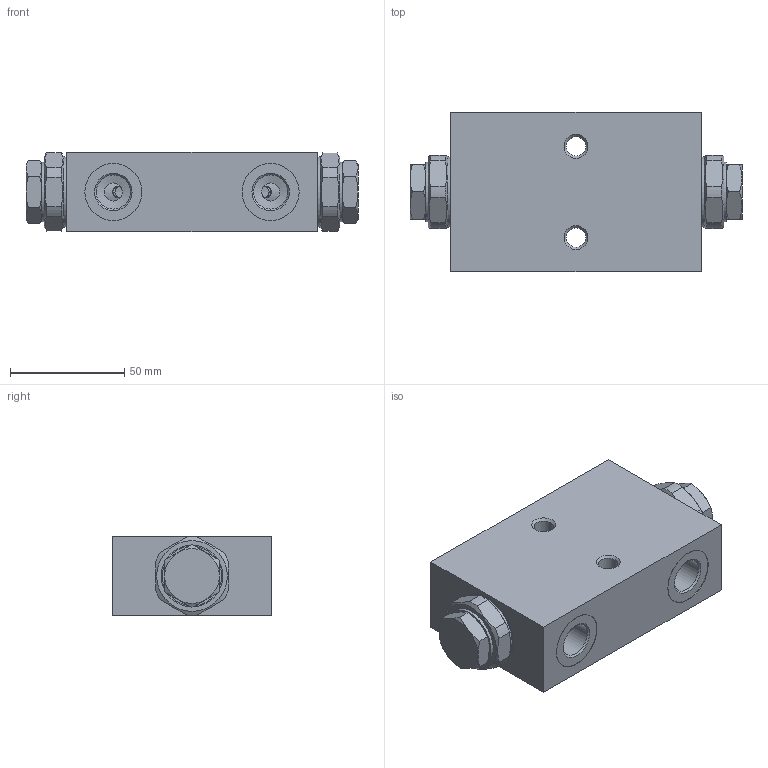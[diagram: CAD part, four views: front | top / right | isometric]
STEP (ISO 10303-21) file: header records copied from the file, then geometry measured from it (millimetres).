
FILE_DESCRIPTION(/* description */ (''),/* implementation_level */ '2;1');
FILE_NAME(/* name */ 'C:\Users\fabio.radici\Desktop\x fede\003-049-0J0_Shrinkwrap.stp',/* time_stamp */ '2021-03-31T09:40:54+02:00',/* author */ ('Fabio.Radici'),/* organization */ (''),/* preprocessor_version */ 'ST-DEVELOPER v18.1',/* originating_system */ 'Autodesk Inventor 2021',/* authorisation */ '');
FILE_SCHEMA (('AUTOMOTIVE_DESIGN { 1 0 10303 214 3 1 1 }'));
Length unit declared in the file: millimetre
Products named in the file (1): 003-049-0J0_Shrinkwrap
Bounding box: 145.6 x 70 x 35 mm (x, y, z)
Surface area: 48747.3 mm2 (no closed solid volume)
Topology: 0 solids, 15 shells, 141 faces, 387 edges, 256 vertices
Faces by surface type: cylinder 49, cone 46, plane 44, torus 2
Full cylindrical faces by diameter (mm): 5 x2, 7 x2, 8 x4, 8.5 x2, 14 x2, 14.95 x4, 18 x2, 22 x3, 23.5 x2, 24.5 x2, 25 x4, 26 x2, 27 x2, 31 x2, 32 x2
Entity records: 5482 total; most frequent: CARTESIAN_POINT 1797, DIRECTION 709, ORIENTED_EDGE 706, EDGE_CURVE 387, AXIS2_PLACEMENT_3D 300, VERTEX_POINT 256, EDGE_LOOP 177, CIRCLE 158
